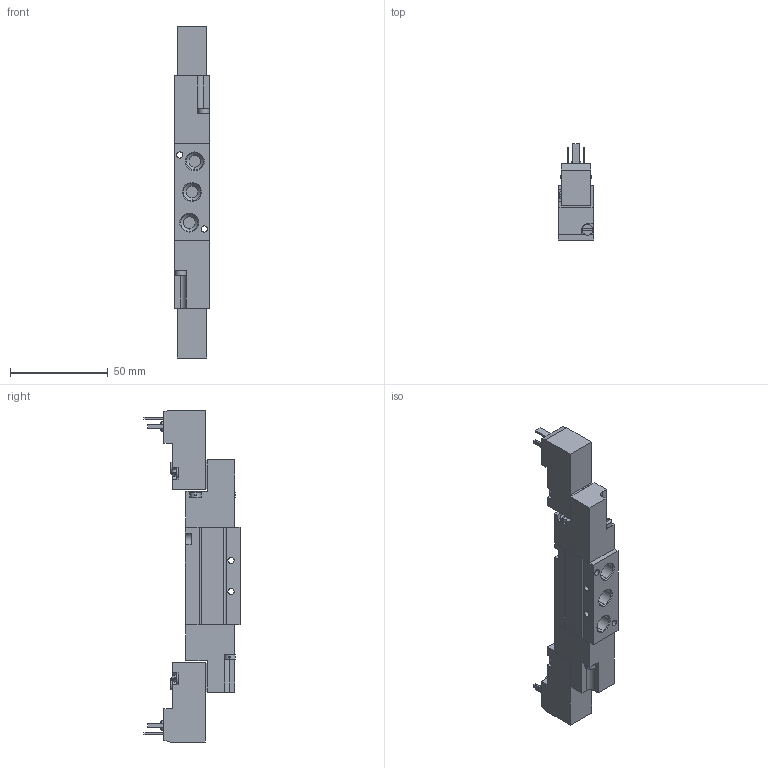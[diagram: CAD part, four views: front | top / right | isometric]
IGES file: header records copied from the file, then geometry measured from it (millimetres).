
Start section:  PTC IGES file: 0820037002\0820037002.iges
Global section: file name: 0820037002\0820037002.iges; native system: Creo Parametric by PTC Inc.; preprocessor: 2023092; author: GND7HC; organization: Unknown; date: 20240603.182202; units: millimetre
Bounding box: 18 x 49.25 x 170.2 mm (x, y, z)
Surface area: 20145.4 mm2 (no closed solid volume)
Topology: 0 solids, 0 shells, 291 faces, 1496 edges, 1496 vertices
Faces by surface type: bspline 189, revolution 102
